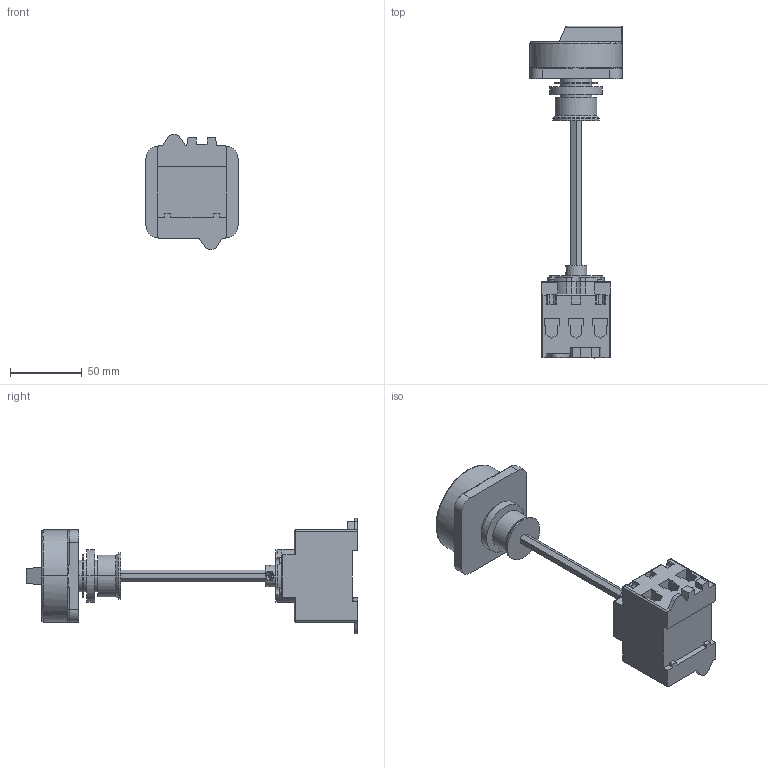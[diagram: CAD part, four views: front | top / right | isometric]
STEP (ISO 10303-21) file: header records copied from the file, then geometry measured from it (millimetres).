
FILE_DESCRIPTION (( 'STEP AP203' ), '1' );
FILE_NAME ('LTS63_80 VZVHN4 A3.STEP', '2014-05-14T05:42:26', ( '' ), ( '' ), 'SwSTEP 2.0', 'SolidWorks 2014', '' );
FILE_SCHEMA (( 'CONFIG_CONTROL_DESIGN' ));
Length unit declared in the file: millimetre
Products named in the file (6): TK2Z H4; LTS63_80 VZVHN4 A3; LTS63 VZV A3_Schaltkörper_ohne zwischenring; Zwischenring; 8184; Achse TK-LT_100_300
Assembly tree (5 placements, depth 2):
  LTS63_80 VZVHN4 A3
    LTS63 VZV A3_Schaltkörper_ohne zwischenring
    Zwischenring
    8184
    Achse TK-LT_100_300
    TK2Z H4
Bounding box: 64 x 230.7 x 80 mm (x, y, z)
Volume: 228556.7 mm3; surface area: 55767.1 mm2
Topology: 5 solids, 5 shells, 429 faces, 1123 edges, 701 vertices
Faces by surface type: plane 197, cylinder 144, cone 33, bspline 33, torus 18, sphere 4
Entity records: 14886 total; most frequent: CARTESIAN_POINT 3867, ORIENTED_EDGE 2210, DIRECTION 2154, EDGE_CURVE 1105, AXIS2_PLACEMENT_3D 770, VERTEX_POINT 701, VECTOR 614, LINE 614
